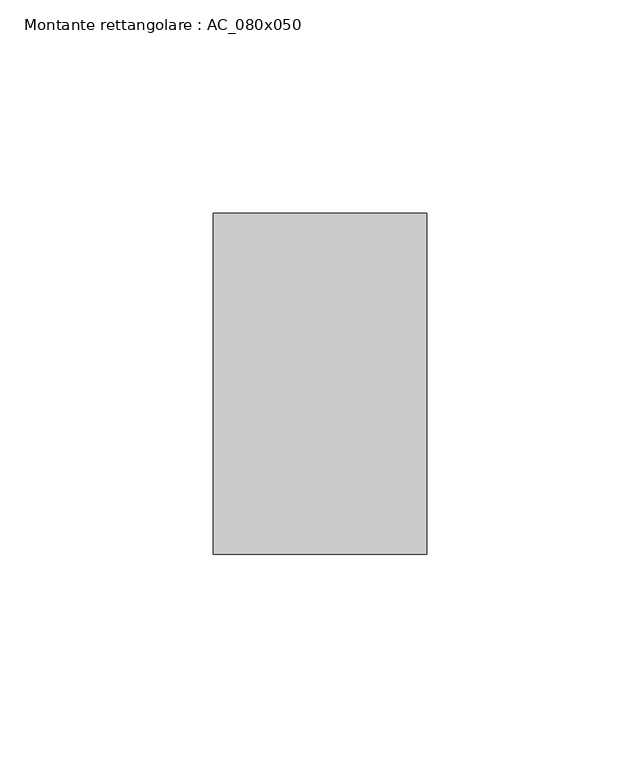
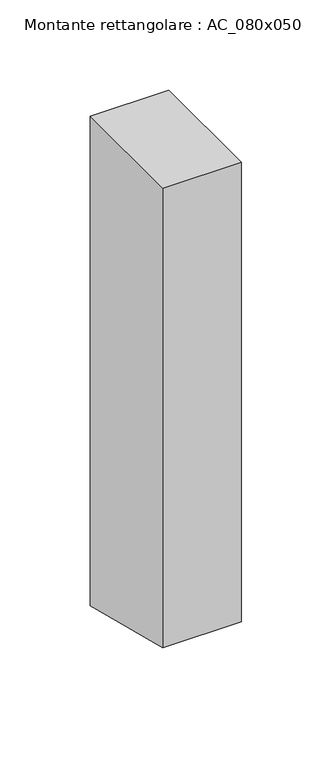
"""IFC4 building model written with IfcOpenShell, lengths in millimetres: member geometry, Montante rettangolare : AC_080x050."""

from ifc_helpers import new_model, si_unit, frame, origin, place, context, project, spatial, polyline, outline, extrude, source, transform, mapped, element, save


def montante_rettangolare_ac_080x050_62b3c33c(model_context):
    return source(origin(), model_context, "Body", "SweptSolid", [
        extrude(outline(polyline([(-40.0, 0.0), (40.0, 0.0), (40.0, -330.0262878), (-40.0, -309.9737122), (-40.0, 0.0)])), frame((-50.0, 0.0, 0.0), z_axis=(1.0, 0.0, 0.0), x_axis=(0.0, 1.0, 0.0)), (0.0, 0.0, 1.0), 50.0),
    ])


if __name__ == "__main__":
    model = new_model("IFC4")
    model_context = context("Model", 3, world=origin())
    ifc_project = project(units=[si_unit("LENGTHUNIT", "METRE", prefix="MILLI")], contexts=[model_context])
    site = spatial("IfcSite", under=ifc_project)
    building = spatial("IfcBuilding", under=site)
    placement = place(None, origin())
    montante_rettangolare_ac_080x050_shape = montante_rettangolare_ac_080x050_62b3c33c(model_context)
    element("IfcMember", 1, ObjectType="Montante rettangolare : AC_080x050", at=placement, inside=building, context=model_context, shape_type="MappedRepresentation", body=[
        mapped(montante_rettangolare_ac_080x050_shape, transform((0.0, 0.0, 0.0), x_axis=(1.0, 0.0, 0.0), y_axis=(0.0, 1.0, 0.0), z_axis=(0.0, 0.0, 1.0))),
    ])
    save(model, "model.ifc")
